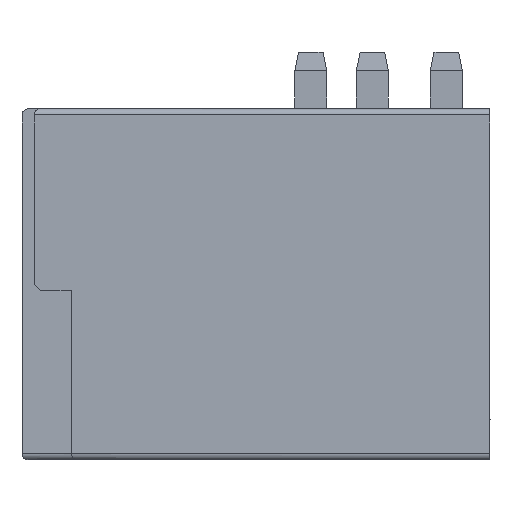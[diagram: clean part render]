
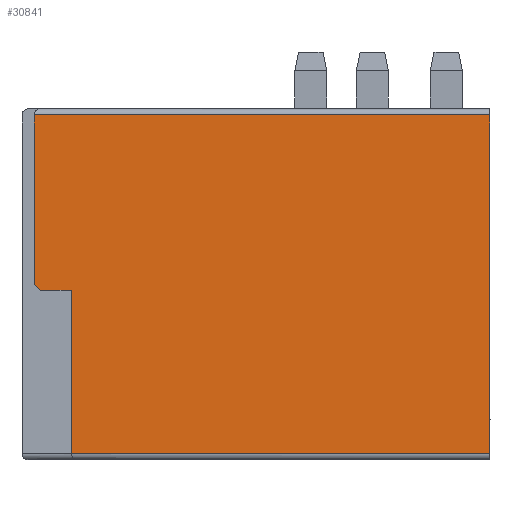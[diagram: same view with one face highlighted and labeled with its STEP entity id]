
A CAD part, left-side view. The second image highlights one B-rep face of the part: STEP entity #30841.
In plain terms, the highlighted planar face has unit normal (-1, 0, 0).
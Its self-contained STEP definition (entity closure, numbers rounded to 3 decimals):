
#1780=DIRECTION('',(0.,0.,1.));
#1781=VECTOR('',#1780,13.25);
#1782=CARTESIAN_POINT('',(13.75,34.,-32.6));
#1783=LINE('',#1782,#1781);
#10376=DIRECTION('',(0.,-1.,0.));
#10377=VECTOR('',#10376,37.);
#10378=CARTESIAN_POINT('',(13.75,37.,-5.1));
#10379=LINE('',#10378,#10377);
#10391=DIRECTION('',(0.,-0.707,-0.707));
#10392=VECTOR('',#10391,0.707);
#10393=CARTESIAN_POINT('',(13.75,37.,-18.85));
#10394=LINE('',#10393,#10392);
#10395=DIRECTION('',(0.,0.,1.));
#10396=VECTOR('',#10395,27.5);
#10397=CARTESIAN_POINT('',(13.75,0.,-32.6));
#10398=LINE('',#10397,#10396);
#10403=DIRECTION('',(0.,1.,0.));
#10404=VECTOR('',#10403,2.5);
#10405=CARTESIAN_POINT('',(13.75,34.,-19.35));
#10406=LINE('',#10405,#10404);
#10425=DIRECTION('',(0.,0.,1.));
#10426=VECTOR('',#10425,13.75);
#10427=CARTESIAN_POINT('',(13.75,37.,-18.85));
#10428=LINE('',#10427,#10426);
#11912=DIRECTION('',(0.,1.,0.));
#11913=VECTOR('',#11912,34.);
#11914=CARTESIAN_POINT('',(13.75,0.,-32.6));
#11915=LINE('',#11914,#11913);
#14787=CARTESIAN_POINT('',(13.75,0.,-32.6));
#14788=VERTEX_POINT('',#14787);
#14789=CARTESIAN_POINT('',(13.75,0.,-5.1));
#14790=VERTEX_POINT('',#14789);
#15099=CARTESIAN_POINT('',(13.75,37.,-5.1));
#15100=VERTEX_POINT('',#15099);
#15101=CARTESIAN_POINT('',(13.75,37.,-18.85));
#15102=CARTESIAN_POINT('',(13.75,36.5,-19.35));
#15103=VERTEX_POINT('',#15101);
#15104=VERTEX_POINT('',#15102);
#15105=CARTESIAN_POINT('',(13.75,34.,-32.6));
#15106=VERTEX_POINT('',#15105);
#15107=CARTESIAN_POINT('',(13.75,34.,-19.35));
#15108=VERTEX_POINT('',#15107);
#30823=CARTESIAN_POINT('',(13.75,37.,-4.6));
#30824=DIRECTION('',(-1.,0.,0.));
#30825=DIRECTION('',(0.,-1.,0.));
#30826=AXIS2_PLACEMENT_3D('',#30823,#30824,#30825);
#30827=PLANE('',#30826);
#30829=ORIENTED_EDGE('',*,*,#30828,.T.);
#30831=ORIENTED_EDGE('',*,*,#30830,.F.);
#30833=ORIENTED_EDGE('',*,*,#30832,.T.);
#30834=ORIENTED_EDGE('',*,*,#30816,.T.);
#30835=ORIENTED_EDGE('',*,*,#18544,.F.);
#30837=ORIENTED_EDGE('',*,*,#30836,.T.);
#30838=ORIENTED_EDGE('',*,*,#18778,.T.);
#30839=EDGE_LOOP('',(#30829,#30831,#30833,#30834,#30835,#30837,#30838));
#30840=FACE_OUTER_BOUND('',#30839,.F.);
#30841=ADVANCED_FACE('',(#30840),#30827,.T.);
#18544=EDGE_CURVE('',#14788,#14790,#10398,.T.);
#18778=EDGE_CURVE('',#15106,#15108,#1783,.T.);
#30816=EDGE_CURVE('',#15100,#14790,#10379,.T.);
#30828=EDGE_CURVE('',#15108,#15104,#10406,.T.);
#30830=EDGE_CURVE('',#15103,#15104,#10394,.T.);
#30832=EDGE_CURVE('',#15103,#15100,#10428,.T.);
#30836=EDGE_CURVE('',#14788,#15106,#11915,.T.);
